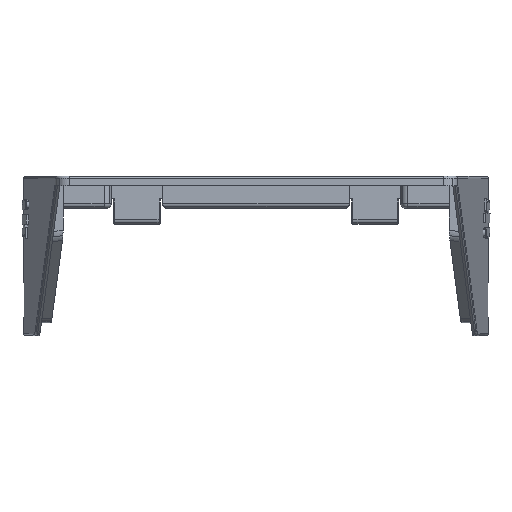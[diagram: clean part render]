
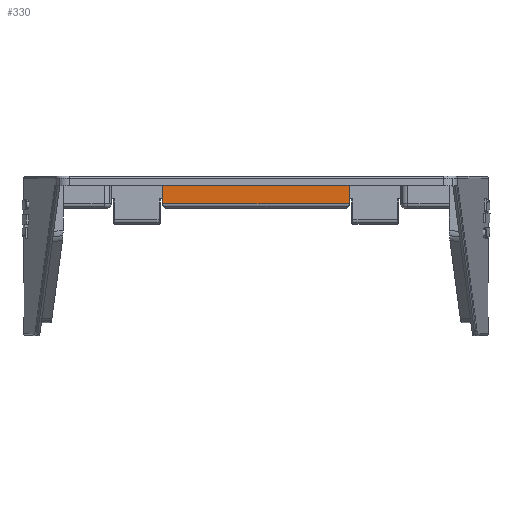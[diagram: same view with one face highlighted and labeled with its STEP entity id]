
A CAD part, front view. The second image highlights one B-rep face of the part: STEP entity #330.
In plain terms, the highlighted planar face has unit normal (0.001, -1, 0).
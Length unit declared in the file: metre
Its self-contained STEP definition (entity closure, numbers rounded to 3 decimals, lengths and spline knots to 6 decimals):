
#330=ADVANCED_FACE('0:614',(#953),#954,.T.);
#953=FACE_OUTER_BOUND('',#3362,.T.);
#954=PLANE('',#3363);
#3362=EDGE_LOOP('',(#6577,#6578,#6579,#6580,#6581,#6582,#6583,#6584));
#3363=AXIS2_PLACEMENT_3D('',#6585,#6586,#6587);
#6577=ORIENTED_EDGE('',*,*,#7083,.F.);
#6578=ORIENTED_EDGE('',*,*,#7883,.T.);
#6579=ORIENTED_EDGE('',*,*,#7884,.F.);
#6580=ORIENTED_EDGE('',*,*,#7881,.F.);
#6581=ORIENTED_EDGE('',*,*,#7846,.T.);
#6582=ORIENTED_EDGE('',*,*,#7740,.T.);
#6583=ORIENTED_EDGE('',*,*,#7885,.T.);
#6584=ORIENTED_EDGE('',*,*,#7809,.F.);
#6585=CARTESIAN_POINT('',(0.059052,-0.017766,0.027775));
#6586=DIRECTION('',(0.001,-1.,0.));
#6587=DIRECTION('',(-1.,-0.001,0.));
#7083=EDGE_CURVE('0:2447',#7999,#8001,#8002,.T.);
#7740=EDGE_CURVE('0:1910',#9136,#9134,#9137,.T.);
#7809=EDGE_CURVE('0:2171',#8001,#9228,#9229,.T.);
#7846=EDGE_CURVE('0:2300',#9279,#9136,#9280,.F.);
#7881=EDGE_CURVE('0:2441',#9279,#9326,#9327,.T.);
#7883=EDGE_CURVE('0:2450',#7999,#9329,#9330,.T.);
#7884=EDGE_CURVE('0:2453',#9326,#9329,#9331,.F.);
#7885=EDGE_CURVE('0:2456',#9134,#9228,#9332,.F.);
#7999=VERTEX_POINT('',#9480);
#8001=VERTEX_POINT('',#9482);
#8002=LINE('',#9483,#9484);
#9134=VERTEX_POINT('',#11713);
#9136=VERTEX_POINT('',#11716);
#9137=LINE('',#11717,#11718);
#9228=VERTEX_POINT('',#11840);
#9229=LINE('',#11841,#11842);
#9279=VERTEX_POINT('',#11917);
#9280=LINE('',#11918,#11919);
#9326=VERTEX_POINT('',#11985);
#9327=LINE('',#11986,#11987);
#9329=VERTEX_POINT('',#11990);
#9330=LINE('',#11991,#11992);
#9331=LINE('',#11993,#11994);
#9332=LINE('',#11995,#11996);
#9480=CARTESIAN_POINT('',(0.078802,-0.017741,0.022275));
#9482=CARTESIAN_POINT('',(0.038802,-0.017792,0.022275));
#9483=CARTESIAN_POINT('',(0.036287,-0.017795,0.022275));
#9484=VECTOR('',#12170,1.0);
#11713=CARTESIAN_POINT('',(0.054552,-0.017772,0.02615));
#11716=CARTESIAN_POINT('',(0.054552,-0.017772,0.02815));
#11717=CARTESIAN_POINT('',(0.054552,-0.017772,0.027775));
#11718=VECTOR('',#13206,1.0);
#11840=CARTESIAN_POINT('',(0.038802,-0.017792,0.02615));
#11841=CARTESIAN_POINT('',(0.038802,-0.017792,0.024525));
#11842=VECTOR('',#13349,1.0);
#11917=CARTESIAN_POINT('',(0.063052,-0.017761,0.02815));
#11918=CARTESIAN_POINT('',(0.036287,-0.017795,0.02815));
#11919=VECTOR('',#13411,1.0);
#11985=CARTESIAN_POINT('',(0.063052,-0.017761,0.02615));
#11986=CARTESIAN_POINT('',(0.063052,-0.017761,0.027775));
#11987=VECTOR('',#13474,1.0);
#11990=CARTESIAN_POINT('',(0.078802,-0.017741,0.02615));
#11991=CARTESIAN_POINT('',(0.078802,-0.017741,0.024525));
#11992=VECTOR('',#13476,1.0);
#11993=CARTESIAN_POINT('',(0.036287,-0.017795,0.02615));
#11994=VECTOR('',#13477,1.0);
#11995=CARTESIAN_POINT('',(0.081317,-0.017738,0.02615));
#11996=VECTOR('',#13478,1.0);
#12170=DIRECTION('',(-1.,-0.001,0.));
#13206=DIRECTION('',(0.,0.,-1.));
#13349=DIRECTION('',(0.,0.,1.));
#13411=DIRECTION('',(1.,0.001,0.));
#13474=DIRECTION('',(0.,0.,-1.));
#13476=DIRECTION('',(0.,0.,1.));
#13477=DIRECTION('',(-1.,-0.001,0.));
#13478=DIRECTION('',(1.,0.001,0.));
